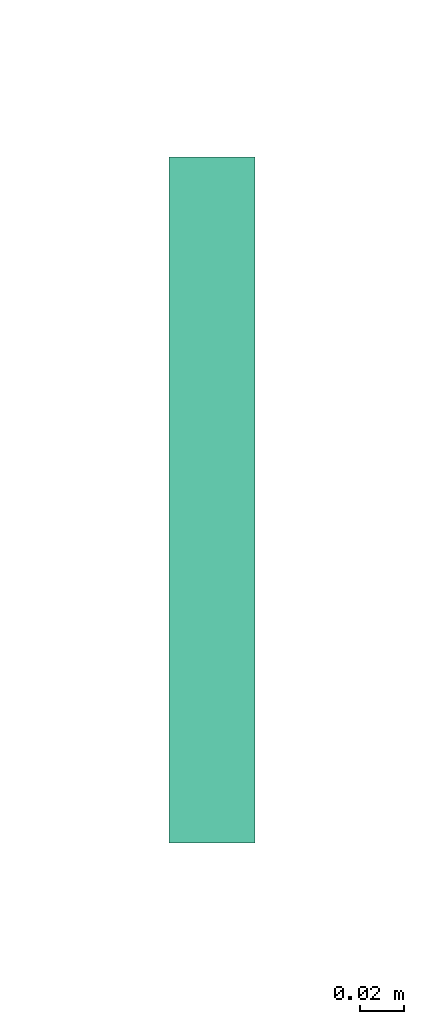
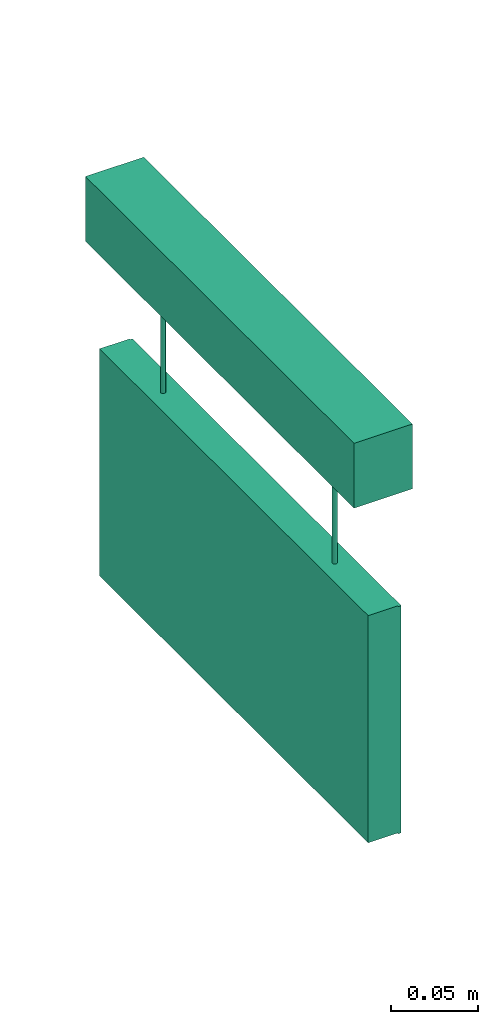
# One storey, part 6 of 22: 1 flow terminal.
"""IFC2X3 building model written with IfcOpenShell, lengths in millimetres."""

import ifcopenshell
import ifcopenshell.guid

model = None  # the IFC model being written
_history = None  # IfcOwnerHistory: only IFC2X3 demands one
_inside = {}  # id of a spatial element -> (the spatial element, [elements in it])
_under = {}  # id of a project, library or spatial element -> (it, [spatial elements below it])
_declared = {}  # id of a project -> (the project, [libraries it declares])
_typed = {}  # id of a type object -> (the type object, [elements of that type])
_made_of = {}  # id of a material, layer set ... -> (it, [elements and type objects made of it])


def new_model(schema):
    """Start an empty IFC model of exactly this schema.

    Asked for "IFC4X3", IfcOpenShell would pick the latest addendum, in which some entities
    have other attributes; the version numbers below select the first issue.
    IFC2X3 requires an IfcOwnerHistory on every rooted entity: one is made here for all.
    """
    global model, _history
    if schema == "IFC4X3":
        model = ifcopenshell.file(schema_version=(4, 3, 0, 0))
    else:
        model = ifcopenshell.file(schema=schema)
    _inside.clear()
    _under.clear()
    _declared.clear()
    _typed.clear()
    _made_of.clear()
    _history = None
    if model.schema == "IFC2X3":
        org = make("IfcOrganization", Name="unknown")
        user = make(
            "IfcPersonAndOrganization",
            ThePerson=make("IfcPerson", FamilyName="unknown"),
            TheOrganization=org,
        )
        app = make(
            "IfcApplication",
            ApplicationDeveloper=org,
            Version="unknown",
            ApplicationFullName="unknown",
            ApplicationIdentifier="unknown",
        )
        _history = make(
            "IfcOwnerHistory",
            OwningUser=user,
            OwningApplication=app,
            ChangeAction="ADDED",
            CreationDate=0,
        )
    return model


def make(cls, **values):
    """One entity of the class cls with the attributes given. An attribute that is None is left unset."""
    return model.create_entity(
        cls, **{name: value for name, value in values.items() if value is not None}
    )


def entity(cls, *values):
    """Any entity or typed value of the class cls, its attributes in the order of the schema. None: left unset."""
    e = model.create_entity(cls)
    for i, value in enumerate(values):
        if value is not None:
            e[i] = value
    return e


def rooted(cls, **values):
    """An entity with a GlobalId (a new one), such as an element, a storey or a relation."""
    return make(cls, GlobalId=ifcopenshell.guid.new(), OwnerHistory=_history, **values)


def si_unit(unit_type, name, prefix=None):
    """IfcSIUnit, for example si_unit("LENGTHUNIT", "METRE", prefix="MILLI")."""
    return make("IfcSIUnit", UnitType=unit_type, Prefix=prefix, Name=name)


def converted_unit(unit_type, name, factor, base, dimensions=None, offset=None):
    """IfcConversionBasedUnit, such as the inch: factor (a typed value) times the base unit."""
    return make(
        "IfcConversionBasedUnit"
        if offset is None
        else "IfcConversionBasedUnitWithOffset",
        ConversionOffset=offset,
        Dimensions=None
        if dimensions is None
        else entity("IfcDimensionalExponents", *dimensions),
        UnitType=unit_type,
        Name=name,
        ConversionFactor=make(
            "IfcMeasureWithUnit", ValueComponent=factor, UnitComponent=base
        ),
    )


def derived_unit(unit_type, elements):
    """IfcDerivedUnit: a product of units, each with its exponent."""
    return make(
        "IfcDerivedUnit",
        Elements=[
            make("IfcDerivedUnitElement", Unit=unit, Exponent=power)
            for unit, power in elements
        ],
        UnitType=unit_type,
    )


def assignment(units):
    """IfcUnitAssignment: the units of a project."""
    return None if units is None else make("IfcUnitAssignment", Units=units)


def point(xyz):
    """IfcCartesianPoint."""
    return None if xyz is None else make("IfcCartesianPoint", Coordinates=xyz)


def direction(xyz):
    """IfcDirection."""
    return None if xyz is None else make("IfcDirection", DirectionRatios=xyz)


def frame(location, z_axis=None, x_axis=None):
    """IfcAxis2Placement3D, a coordinate frame: its origin and axes. An axis left out is left unset."""
    return make(
        "IfcAxis2Placement3D",
        Location=point(location),
        Axis=direction(z_axis),
        RefDirection=direction(x_axis),
    )


def origin_with_axes():
    """The frame at (0, 0, 0) with the z axis (0, 0, 1) and the x axis (1, 0, 0) written out."""
    return frame((0.0, 0.0, 0.0), z_axis=(0.0, 0.0, 1.0), x_axis=(1.0, 0.0, 0.0))


def place(relative_to, where):
    """IfcLocalPlacement: puts the frame where relative to a parent placement (None: the world)."""
    return make(
        "IfcLocalPlacement", PlacementRelTo=relative_to, RelativePlacement=where
    )


def context(
    kind, dimensions, precision=None, world=None, true_north=None, identifier=None
):
    """IfcGeometricRepresentationContext, for example the 3D "Model" context."""
    return make(
        "IfcGeometricRepresentationContext",
        ContextIdentifier=identifier,
        ContextType=kind,
        CoordinateSpaceDimension=dimensions,
        Precision=precision,
        WorldCoordinateSystem=world,
        TrueNorth=true_north,
    )


def subcontext(parent, identifier, kind, view, scale=None):
    """IfcGeometricRepresentationSubContext, for example "Body" below "Model"."""
    return make(
        "IfcGeometricRepresentationSubContext",
        ContextIdentifier=identifier,
        ContextType=kind,
        ParentContext=parent,
        TargetScale=scale,
        TargetView=view,
    )


def project(units=None, contexts=None):
    """IfcProject with its units and contexts."""
    return rooted(
        "IfcProject",
        Name="project",
        RepresentationContexts=contexts,
        UnitsInContext=assignment(units),
    )


def spatial(cls, under=None, at=None, **own):
    """A site, building, storey or space (cls), placed at a placement, below another one or the project."""
    s = rooted(cls, ObjectPlacement=at, **own)
    if under is not None:
        _under.setdefault(under.id(), (under, []))[1].append(s)
    return s


def faces_of(points, faces, orient=None, outer=None):
    """IfcFace entities. A face is a list of loops; a loop is a list of indices into points, from 0.

    orient and outer hold one flag for each loop. By default every Orientation is true, the
    first loop of a face is its IfcFaceOuterBound and the others are IfcFaceBound.
    """
    made = []
    for i, loops in enumerate(faces):
        bounds = []
        for j, loop in enumerate(loops):
            is_outer = j == 0 if outer is None else outer[i][j]
            bounds.append(
                make(
                    "IfcFaceOuterBound" if is_outer else "IfcFaceBound",
                    Bound=make("IfcPolyLoop", Polygon=[points[k] for k in loop]),
                    Orientation=True if orient is None else orient[i][j],
                )
            )
        made.append(make("IfcFace", Bounds=bounds))
    return made


def open_shell(faces, orient=None, outer=None):
    """The faces of one IfcOpenShell. surface_model builds it on its shared points."""
    return ("IfcOpenShell", faces, orient, outer)


def surface_model(cls, points, shells):
    """IfcFaceBasedSurfaceModel or IfcShellBasedSurfaceModel (cls): surfaces that need not close."""
    shared = [point(p) for p in points]
    made = [make(c, CfsFaces=faces_of(shared, fs, o, b)) for c, fs, o, b in shells]
    if cls == "IfcFaceBasedSurfaceModel":
        return make(cls, FbsmFaces=made)
    return make(cls, SbsmBoundary=made)


def shape(context_of_items, identifier, shape_type, items):
    """IfcShapeRepresentation: the items that make up one representation, for example the "Body"."""
    return make(
        "IfcShapeRepresentation",
        ContextOfItems=context_of_items,
        RepresentationIdentifier=identifier,
        RepresentationType=shape_type,
        Items=items,
    )


def source(mapping_origin, context_of_items, identifier, shape_type, items):
    """IfcRepresentationMap: a shape defined once, which mapped items show again and again."""
    return make(
        "IfcRepresentationMap",
        MappingOrigin=mapping_origin,
        MappedRepresentation=shape(context_of_items, identifier, shape_type, items),
    )


def transform(
    local_origin,
    x_axis=None,
    y_axis=None,
    z_axis=None,
    scale=None,
    scale2=None,
    scale3=None,
    uniform=True,
):
    """IfcCartesianTransformationOperator3D, or its non-uniform kind. x_axis, y_axis, z_axis: its Axis1, 2, 3."""
    if uniform:
        return make(
            "IfcCartesianTransformationOperator3D",
            Axis1=direction(x_axis),
            Axis2=direction(y_axis),
            LocalOrigin=point(local_origin),
            Scale=scale,
            Axis3=direction(z_axis),
        )
    return make(
        "IfcCartesianTransformationOperator3DnonUniform",
        Axis1=direction(x_axis),
        Axis2=direction(y_axis),
        LocalOrigin=point(local_origin),
        Scale=scale,
        Axis3=direction(z_axis),
        Scale2=scale2,
        Scale3=scale3,
    )


def mapped(mapping_source, mapping_target):
    """IfcMappedItem: shows the shape of a source again, moved by a transform."""
    return make(
        "IfcMappedItem", MappingSource=mapping_source, MappingTarget=mapping_target
    )


def made_of(thing, what):
    """Note that an element or type object is made of a material, layer set ...; save() writes the relation."""
    if what is not None:
        _made_of.setdefault(what.id(), (what, []))[1].append(thing)
    return thing


def type_object(cls, material=None, **own):
    """A type object (cls), such as IfcWallType, which elements share."""
    return made_of(rooted(cls, **own), material)


def element(
    cls,
    number,
    at=None,
    inside=None,
    cuts=None,
    type_object=None,
    material=None,
    context=None,
    identifier="Body",
    shape_type=None,
    held_by="IfcProductDefinitionShape",
    body=None,
    shapes=None,
    **own,
):
    """One element of the class cls, such as IfcWall. Its Tag is "e" and its number.

    at: its placement. inside: the storey or other place that contains it. cuts: it is an
    opening in that element (IfcRelVoidsElement). A single representation is given by context,
    identifier, shape_type and body (its items); several are given by shapes. held_by: the class
    of the entity that holds the representations. save() writes the other relations.
    """
    e = rooted(cls, Tag="e%d" % number, ObjectPlacement=at, **own)
    if body is not None:
        shapes = [shape(context, identifier, shape_type, body)]
    if shapes is not None:
        e.Representation = make(held_by, Representations=shapes)
    if inside is not None:
        _inside.setdefault(inside.id(), (inside, []))[1].append(e)
    if cuts is not None:
        rooted(
            "IfcRelVoidsElement", RelatingBuildingElement=cuts, RelatedOpeningElement=e
        )
    if type_object is not None:
        _typed.setdefault(type_object.id(), (type_object, []))[1].append(e)
    return made_of(e, material)


def aggregate(whole, parts):
    """IfcRelAggregates: a whole, such as a stair, and the parts it consists of."""
    return rooted("IfcRelAggregates", RelatingObject=whole, RelatedObjects=parts)


def save(model, path):
    """Write the relations noted so far, then the file.

    IfcRelAggregates (storeys below a building ...), IfcRelContainedInSpatialStructure (elements
    in a storey), IfcRelDefinesByType, IfcRelAssociatesMaterial and IfcRelDeclares: one each for
    every whole, place, type object, material and project.
    """
    for whole, parts in _under.values():
        aggregate(whole, parts)
    for where, things in _inside.values():
        rooted(
            "IfcRelContainedInSpatialStructure",
            RelatedElements=things,
            RelatingStructure=where,
        )
    for kind, things in _typed.values():
        rooted("IfcRelDefinesByType", RelatedObjects=things, RelatingType=kind)
    for what, things in _made_of.values():
        rooted("IfcRelAssociatesMaterial", RelatedObjects=things, RelatingMaterial=what)
    for by, libraries in _declared.values():
        rooted("IfcRelDeclares", RelatingContext=by, RelatedDefinitions=libraries)
    model.write(path)


model = new_model("IFC2X3")

# Units and contexts
model_context = context("Model", 3, precision=0.01, world=frame((0.0, 4.29681676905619e-09, 0.0)), true_north=direction((4.01073788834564e-13, 1.0)))
plan_context = context("Plan", 3, precision=0.01, world=frame((0.0, 4.29681676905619e-09, 0.0)), true_north=direction((4.01073788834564e-13, 1.0)))
body_context = subcontext(model_context, "Body", "Model", "MODEL_VIEW")
ifc_project = project(units=[converted_unit("PLANEANGLEUNIT", "DEGREE", entity("IfcPositiveLengthMeasure", 0.0174532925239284), si_unit("PLANEANGLEUNIT", "RADIAN"), dimensions=[0, 0, 0, 0, 0, 0, 0]), si_unit("AREAUNIT", "SQUARE_METRE"), si_unit("LENGTHUNIT", "METRE", prefix="MILLI"), si_unit("MASSUNIT", "GRAM", prefix="KILO"), si_unit("POWERUNIT", "WATT"), si_unit("PRESSUREUNIT", "PASCAL", prefix="KILO"), si_unit("FORCEUNIT", "NEWTON", prefix="KILO"), si_unit("ELECTRICVOLTAGEUNIT", "VOLT"), si_unit("ELECTRICCURRENTUNIT", "AMPERE"), si_unit("THERMODYNAMICTEMPERATUREUNIT", "DEGREE_CELSIUS"), si_unit("TIMEUNIT", "SECOND"), si_unit("VOLUMEUNIT", "CUBIC_METRE"), derived_unit("LINEARVELOCITYUNIT", [(si_unit("LENGTHUNIT", "METRE"), 1), (si_unit("TIMEUNIT", "SECOND"), -1)]), derived_unit("VOLUMETRICFLOWRATEUNIT", [(si_unit("VOLUMEUNIT", "CUBIC_METRE"), 1), (si_unit("TIMEUNIT", "SECOND"), -1)]), derived_unit("THERMALTRANSMITTANCEUNIT", [(si_unit("POWERUNIT", "WATT"), 1), (si_unit("THERMODYNAMICTEMPERATUREUNIT", "KELVIN"), -1), (si_unit("AREAUNIT", "SQUARE_METRE"), -1)]), derived_unit("SOUNDPRESSUREUNIT", [(si_unit("PRESSUREUNIT", "PASCAL"), 1)])], contexts=[model_context, plan_context])

# Site, building, storey
site_placement = place(None, frame((0.0, -4.29681676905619e-09, 0.0), z_axis=(0.0, 0.0, 1.0), x_axis=(1.0, 0.0, 0.0)))
site = spatial("IfcSite", under=ifc_project, at=site_placement, Name="ENGM", CompositionType="ELEMENT")
building_placement = place(site_placement, frame((0.0, 4.29681676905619e-09, 0.0), z_axis=(0.0, 0.0, 1.0), x_axis=(1.0, 0.0, 0.0)))
building = spatial("IfcBuilding", under=site, at=building_placement, Name="TI", CompositionType="ELEMENT")
storey_placement = place(building_placement, frame((0.0, 0.0, 210900.0), z_axis=(0.0, 0.0, 1.0), x_axis=(1.0, 0.0, 0.0)))
storey = spatial("IfcBuildingStorey", under=building, at=storey_placement, Name="Nivå F", CompositionType="ELEMENT", Elevation=210900.0)

# Flow terminal
light_fixture_type = type_object("IfcLightFixtureType", Name="IB7334 Zumtobel Puresign/Consign 150 ASI NDA", PredefinedType="NOTDEFINED")
shared_shape = source(origin_with_axes(), body_context, "Body", "SurfaceModel", [
    surface_model("IfcShellBasedSurfaceModel", [(-81.53868, 34.0, -145.12258), (-54.46132, 34.0, -145.12258), (-54.46132, 34.0, -221.44284), (-27.10707, 34.0, -224.68761), (-68.0, 34.0, -265.58054), (-27.10707, 34.0, -194.08859), (-81.53868, 34.0, -221.44284), (-108.89293, 34.0, -224.68761), (-108.89293, 34.0, -194.08859), (-81.53868, 32.0, -221.44284), (-68.0, 32.0, -265.58054), (-54.46132, 32.0, -221.44284), (-108.89293, 32.0, -224.68761), (-108.89293, 32.0, -194.08859), (-27.10707, 32.0, -224.68761), (-81.53868, 32.0, -145.12258), (-54.46132, 32.0, -145.12258), (-27.10707, 32.0, -194.08859), (-128.62178, 34.0, -240.35155), (-135.61481, 34.0, -223.4689), (-117.49747, 34.0, -254.84903), (-138.0, 34.0, -205.35156), (-135.61481, 34.0, -187.23423), (-128.62178, 34.0, -170.35156), (-103.0, 34.0, -265.97334), (-86.11734, 34.0, -272.96637), (-68.0, 34.0, -275.35156), (-49.88267, 34.0, -272.96637), (-33.0, 34.0, -265.97334), (-117.49747, 34.0, -155.8541), (-103.0, 34.0, -144.72978), (-86.11734, 34.0, -137.73675), (-68.0, 34.0, -135.35156), (-49.88267, 34.0, -137.73675), (-33.0, 34.0, -144.72978), (-0.38519, 34.0, -223.4689), (-7.37822, 34.0, -240.35155), (2.0, 34.0, -205.35156), (-18.50252, 34.0, -254.84903), (-18.50252, 34.0, -155.8541), (-7.37822, 34.0, -170.35156), (-0.38519, 34.0, -187.23423), (-49.88267, 32.0, -137.73675), (-68.0, 32.0, -135.35156), (-33.0, 32.0, -144.72978), (-103.0, 32.0, -144.72978), (-86.11734, 32.0, -137.73675), (-0.38519, 32.0, -187.23423), (-7.37822, 32.0, -170.35156), (2.0, 32.0, -205.35156), (-18.50252, 32.0, -155.8541), (-0.38519, 32.0, -223.4689), (-7.37822, 32.0, -240.35155), (-18.50252, 32.0, -254.84903), (-117.49747, 32.0, -155.8541), (-128.62178, 32.0, -170.35156), (-135.61481, 32.0, -187.23423), (-138.0, 32.0, -205.35156), (-135.61481, 32.0, -223.4689), (-128.62178, 32.0, -240.35155), (-117.49747, 32.0, -254.84903), (-103.0, 32.0, -265.97334), (-33.0, 32.0, -265.97334), (-86.11734, 32.0, -272.96637), (-49.88267, 32.0, -272.96637), (-68.0, 32.0, -275.35156), (-155.0, 34.0, -285.35157), (29.54747, 34.0, -259.89348), (40.0, 34.0, -266.174), (155.0, 34.0, -285.35157), (-155.0, 34.0, -125.35156), (10.0, 34.0, -203.35156), (10.0, 34.0, -191.35157), (40.0, 34.0, -203.35156), (28.0, 34.0, -178.14045), (58.20469, 34.0, -212.19986), (68.0, 34.0, -251.35155), (68.0, 34.0, -219.57417), (110.0, 34.0, -251.35155), (110.0, 34.0, -239.35156), (80.0, 34.0, -207.93515), (80.0, 34.0, -239.35156), (155.0, 34.0, -125.35156), (28.0, 34.0, -191.35157), (88.85504, 34.0, -196.43854), (99.14496, 34.0, -190.26459), (78.60286, 34.0, -179.35157), (65.7082, 34.0, -179.35157), (38.37653, 34.0, -166.87452), (42.6718, 34.0, -168.35925), (40.0, 34.0, -183.07235), (29.87565, 34.0, -160.35157), (28.0, 34.0, -153.35156), (28.47704, 34.0, -149.7281), (29.87565, 34.0, -146.35156), (28.47704, 34.0, -156.97503), (35.0, 34.0, -165.47591), (32.1005, 34.0, -163.25106), (42.0, 34.0, -139.35156), (32.1005, 34.0, -143.45206), (35.0, 34.0, -141.22721), (38.37653, 34.0, -139.8286), (42.0, 34.0, -167.35156), (45.62347, 34.0, -166.87452), (46.0, 34.0, -167.35156), (49.0, 34.0, -165.47591), (85.39714, 34.0, -167.35156), (51.89949, 34.0, -163.25106), (54.12435, 34.0, -160.35157), (55.52296, 34.0, -156.97503), (51.89949, 34.0, -143.45206), (49.0, 34.0, -141.22721), (45.62347, 34.0, -139.8286), (55.52296, 34.0, -149.7281), (56.0, 34.0, -153.35156), (54.12435, 34.0, -146.35156), (155.0, 32.0, -125.35156), (-155.0, 32.0, -125.35156), (42.0, 32.0, -139.35156), (35.0, 32.0, -141.22721), (29.87565, 32.0, -146.35156), (32.1005, 32.0, -143.45206), (38.37653, 32.0, -139.8286), (28.47704, 32.0, -149.7281), (28.0, 32.0, -153.35156), (28.47704, 32.0, -156.97503), (28.0, 32.0, -178.14045), (38.37653, 32.0, -166.87452), (35.0, 32.0, -165.47591), (32.1005, 32.0, -163.25106), (29.87565, 32.0, -160.35157), (45.62347, 32.0, -139.8286), (49.0, 32.0, -141.22721), (51.89949, 32.0, -143.45206), (54.12435, 32.0, -146.35156), (85.39714, 32.0, -167.35156), (55.52296, 32.0, -149.7281), (56.0, 32.0, -153.35156), (45.62347, 32.0, -166.87452), (42.6718, 32.0, -168.35925), (46.0, 32.0, -167.35156), (42.0, 32.0, -167.35156), (49.0, 32.0, -165.47591), (54.12435, 32.0, -160.35157), (55.52296, 32.0, -156.97503), (51.89949, 32.0, -163.25106), (99.14496, 32.0, -190.26459), (-155.0, 32.0, -285.35157), (10.0, 32.0, -203.35156), (10.0, 32.0, -191.35157), (40.0, 32.0, -203.35156), (29.54747, 32.0, -259.89348), (155.0, 32.0, -285.35157), (40.0, 32.0, -266.174), (28.0, 32.0, -191.35157), (88.85504, 32.0, -196.43854), (78.60286, 32.0, -179.35157), (80.0, 32.0, -207.93515), (65.7082, 32.0, -179.35157), (110.0, 32.0, -239.35156), (40.0, 32.0, -183.07235), (58.20469, 32.0, -212.19986), (68.0, 32.0, -219.57417), (68.0, 32.0, -251.35155), (110.0, 32.0, -251.35155), (80.0, 32.0, -239.35156), (97.65961, 22.79955, -45.35156), (98.63059, 23.54461, -45.35156), (98.24492, 23.38486, -45.35156), (97.91374, 23.13074, -45.35156), (97.49985, 22.41388, -45.35156), (97.44537, 22.0, -45.35156), (99.45835, 23.54461, -45.35156), (100.42933, 21.20045, -45.35156), (99.84401, 23.38486, -45.35156), (100.58908, 22.41388, -45.35156), (99.04447, 23.5991, -45.35156), (100.42933, 22.79955, -45.35156), (100.1752, 23.13074, -45.35156), (97.91374, 20.86927, -45.35156), (97.49985, 21.58612, -45.35156), (97.65961, 21.20045, -45.35156), (98.63059, 20.45539, -45.35156), (99.04447, 20.4009, -45.35156), (98.24492, 20.61514, -45.35156), (99.45835, 20.45539, -45.35156), (100.64357, 22.0, -45.35156), (100.58908, 21.58612, -45.35156), (99.84401, 20.61514, -45.35156), (100.1752, 20.86927, -45.35156), (-99.84401, 23.38486, -45.35156), (-98.24492, 23.38486, -45.35156), (-99.45835, 23.54461, -45.35156), (-100.1752, 23.13074, -45.35156), (-100.1752, 20.86927, -45.35156), (-100.58908, 22.41388, -45.35156), (-100.64357, 22.0, -45.35156), (-100.42933, 22.79955, -45.35156), (-97.65961, 21.20045, -45.35156), (-99.04447, 23.5991, -45.35156), (-98.63059, 23.54461, -45.35156), (-97.91374, 23.13074, -45.35156), (-97.49985, 22.41388, -45.35156), (-97.65961, 22.79955, -45.35156), (-100.58908, 21.58612, -45.35156), (-100.42933, 21.20045, -45.35156), (-99.45835, 20.45539, -45.35156), (-99.84401, 20.61514, -45.35156), (-99.04447, 20.4009, -45.35156), (-98.63059, 20.45539, -45.35156), (-97.44537, 22.0, -45.35156), (-97.49985, 21.58612, -45.35156), (-98.24492, 20.61514, -45.35156), (-97.91374, 20.86927, -45.35156), (97.91374, 20.86927, -124.69685), (99.04447, 20.4009, -124.69685), (98.63059, 20.45539, -124.69685), (98.24492, 20.61514, -124.69685), (97.65961, 21.20045, -124.69685), (97.49985, 21.58612, -124.69685), (99.45835, 20.45539, -124.69685), (97.65961, 22.79955, -124.69685), (100.42933, 21.20045, -124.69685), (99.84401, 20.61514, -124.69685), (100.1752, 20.86927, -124.69685), (100.64357, 22.0, -124.69685), (100.58908, 21.58612, -124.69685), (100.58908, 22.41388, -124.69685), (97.44537, 22.0, -124.69685), (97.49985, 22.41388, -124.69685), (98.63059, 23.54461, -124.69685), (98.24492, 23.38486, -124.69685), (97.91374, 23.13074, -124.69685), (99.45835, 23.54461, -124.69685), (100.42933, 22.79955, -124.69685), (99.84401, 23.38486, -124.69685), (100.1752, 23.13074, -124.69685), (99.04447, 23.5991, -124.69685), (-99.45835, 20.45539, -124.69685), (-98.63059, 20.45539, -124.69685), (-99.04447, 20.4009, -124.69685), (-100.1752, 20.86927, -124.69685), (-99.84401, 20.61514, -124.69685), (-100.42933, 21.20045, -124.69685), (-100.58908, 21.58612, -124.69685), (-97.65961, 21.20045, -124.69685), (-99.84401, 23.38486, -124.69685), (-98.24492, 20.61514, -124.69685), (-97.91374, 20.86927, -124.69685), (-97.44537, 22.0, -124.69685), (-97.49985, 21.58612, -124.69685), (-97.49985, 22.41388, -124.69685), (-100.64357, 22.0, -124.69685), (-100.1752, 23.13074, -124.69685), (-100.58908, 22.41388, -124.69685), (-100.42933, 22.79955, -124.69685), (-98.24492, 23.38486, -124.69685), (-99.45835, 23.54461, -124.69685), (-97.91374, 23.13074, -124.69685), (-97.65961, 22.79955, -124.69685), (-99.04447, 23.5991, -124.69685), (-98.63059, 23.54461, -124.69685), (155.0, 41.43279, -0.02005), (155.0, 2.56721, -0.02005), (155.0, 41.43279, -45.67969), (155.0, 2.56721, -45.67969), (155.0, 32.0, -124.69685), (155.0, 12.0, -124.69685), (155.0, 12.0, -284.69685), (155.0, 32.0, -284.69685), (-155.0, 32.0, -284.69685), (-155.0, 12.0, -284.69685), (-155.0, 32.0, -124.69685), (-155.0, 12.0, -124.69685), (-155.0, 41.43279, -45.67969), (-155.0, 2.56721, -45.67969), (-155.0, 2.56721, -0.02005), (-155.0, 41.43279, -0.02005)], [open_shell([[[0, 1, 2]], [[2, 3, 4]], [[3, 2, 5]], [[6, 4, 7]], [[4, 6, 2]], [[6, 7, 8]], [[2, 6, 0]], [[9, 10, 11]], [[12, 9, 13]], [[9, 12, 10]], [[10, 14, 11]], [[15, 11, 16]], [[15, 9, 11]], [[17, 11, 14]], [[3, 5, 17]], [[17, 14, 3]], [[4, 3, 14]], [[14, 10, 4]], [[7, 4, 10]], [[10, 12, 7]], [[8, 7, 12]], [[12, 13, 8]], [[6, 8, 9]], [[13, 9, 8]], [[0, 6, 9]], [[9, 15, 0]], [[1, 0, 15]], [[15, 16, 1]], [[2, 1, 16]], [[16, 11, 2]], [[5, 2, 17]], [[11, 17, 2]], [[18, 19, 7]], [[7, 20, 18]], [[7, 19, 21]], [[22, 23, 8]], [[7, 21, 8]], [[6, 8, 0]], [[8, 21, 22]], [[20, 7, 24]], [[25, 24, 4]], [[26, 4, 27]], [[4, 26, 25]], [[7, 4, 24]], [[27, 4, 28]], [[3, 28, 4]], [[8, 23, 29]], [[30, 0, 8]], [[0, 31, 32]], [[31, 0, 30]], [[32, 33, 1]], [[2, 1, 5]], [[34, 1, 33]], [[32, 1, 0]], [[5, 1, 34]], [[3, 35, 36]], [[35, 3, 37]], [[36, 38, 3]], [[38, 28, 3]], [[39, 40, 5]], [[5, 41, 37]], [[41, 5, 40]], [[5, 37, 3]], [[39, 5, 34]], [[30, 8, 29]], [[42, 43, 16]], [[17, 44, 16]], [[16, 44, 42]], [[43, 15, 16]], [[15, 45, 13]], [[46, 15, 43]], [[15, 46, 45]], [[16, 11, 17]], [[17, 47, 48]], [[17, 49, 47]], [[48, 50, 17]], [[14, 51, 49]], [[52, 51, 14]], [[52, 14, 53]], [[14, 49, 17]], [[50, 44, 17]], [[45, 54, 13]], [[55, 56, 13]], [[57, 12, 13]], [[13, 56, 57]], [[9, 15, 13]], [[58, 59, 12]], [[60, 12, 59]], [[12, 57, 58]], [[12, 60, 61]], [[14, 10, 62]], [[53, 14, 62]], [[61, 63, 10]], [[64, 10, 65]], [[10, 64, 62]], [[65, 10, 63]], [[12, 61, 10]], [[13, 54, 55]], [[3, 4, 10]], [[10, 14, 3]], [[5, 3, 14]], [[14, 17, 5]], [[2, 5, 17]], [[17, 11, 2]], [[1, 2, 16]], [[11, 16, 2]], [[0, 1, 16]], [[16, 15, 0]], [[6, 0, 15]], [[15, 9, 6]], [[8, 6, 9]], [[9, 13, 8]], [[7, 8, 13]], [[13, 12, 7]], [[4, 7, 12]], [[12, 10, 4]], [[42, 33, 43]], [[44, 34, 42]], [[40, 50, 48]], [[44, 50, 39]], [[41, 48, 47]], [[42, 34, 33]], [[33, 32, 43]], [[41, 40, 48]], [[39, 50, 40]], [[39, 34, 44]], [[37, 41, 47]], [[47, 49, 37]], [[51, 35, 49]], [[52, 36, 51]], [[28, 53, 62]], [[52, 53, 38]], [[27, 62, 64]], [[52, 38, 36]], [[36, 35, 51]], [[26, 27, 64]], [[28, 62, 27]], [[28, 38, 53]], [[65, 26, 64]], [[49, 35, 37]], [[63, 25, 65]], [[61, 24, 63]], [[18, 60, 59]], [[61, 60, 20]], [[19, 59, 58]], [[63, 24, 25]], [[25, 26, 65]], [[19, 18, 59]], [[20, 60, 18]], [[20, 24, 61]], [[21, 19, 58]], [[58, 57, 21]], [[56, 22, 57]], [[55, 23, 56]], [[30, 54, 45]], [[55, 54, 29]], [[31, 45, 46]], [[55, 29, 23]], [[23, 22, 56]], [[32, 31, 46]], [[30, 45, 31]], [[30, 29, 54]], [[43, 32, 46]], [[57, 22, 21]], [[66, 24, 25]], [[24, 66, 20]], [[18, 20, 66]], [[66, 19, 18]], [[25, 26, 66]], [[28, 38, 67]], [[27, 28, 68]], [[26, 27, 69]], [[66, 26, 69]], [[21, 19, 66]], [[22, 21, 70]], [[67, 36, 35]], [[71, 37, 72]], [[41, 72, 37]], [[37, 71, 35]], [[73, 35, 71]], [[41, 40, 74]], [[21, 66, 70]], [[38, 36, 67]], [[67, 68, 28]], [[67, 73, 75]], [[76, 68, 77]], [[69, 78, 79]], [[69, 68, 78]], [[80, 79, 81]], [[68, 76, 78]], [[82, 69, 79]], [[68, 69, 27]], [[73, 67, 35]], [[74, 83, 72]], [[72, 41, 74]], [[84, 85, 79]], [[84, 80, 86]], [[86, 80, 87]], [[88, 89, 74]], [[84, 79, 80]], [[75, 73, 90]], [[82, 79, 85]], [[91, 74, 40]], [[92, 40, 39]], [[39, 93, 92]], [[94, 93, 39]], [[23, 70, 29]], [[40, 92, 95]], [[96, 74, 97]], [[91, 40, 95]], [[74, 91, 97]], [[74, 96, 88]], [[31, 30, 70]], [[98, 33, 32]], [[70, 32, 31]], [[30, 29, 70]], [[39, 99, 94]], [[39, 34, 99]], [[34, 100, 99]], [[100, 34, 33]], [[101, 100, 33]], [[32, 70, 82]], [[23, 22, 70]], [[89, 102, 103]], [[102, 89, 88]], [[89, 103, 104]], [[104, 105, 106]], [[107, 106, 105]], [[105, 104, 103]], [[106, 108, 109]], [[106, 107, 108]], [[110, 111, 82]], [[98, 101, 33]], [[112, 98, 82]], [[111, 112, 82]], [[113, 106, 114]], [[115, 82, 106]], [[82, 115, 110]], [[106, 113, 115]], [[114, 106, 109]], [[98, 32, 82]], [[106, 82, 85]], [[116, 117, 43]], [[43, 117, 46]], [[45, 46, 117]], [[117, 54, 45]], [[43, 42, 118]], [[119, 42, 44]], [[120, 121, 50]], [[44, 121, 119]], [[44, 50, 121]], [[119, 122, 42]], [[123, 120, 50]], [[123, 50, 124]], [[125, 124, 48]], [[54, 117, 55]], [[126, 127, 128]], [[126, 129, 130]], [[126, 128, 129]], [[130, 125, 48]], [[124, 50, 48]], [[117, 56, 55]], [[118, 131, 116]], [[118, 42, 122]], [[131, 132, 116]], [[116, 133, 134]], [[133, 116, 132]], [[135, 134, 136]], [[116, 134, 135]], [[135, 136, 137]], [[118, 116, 43]], [[138, 139, 140]], [[139, 138, 141]], [[139, 141, 127]], [[127, 126, 139]], [[138, 140, 142]], [[143, 135, 144]], [[142, 135, 145]], [[135, 142, 140]], [[135, 143, 145]], [[144, 135, 137]], [[116, 135, 146]], [[56, 117, 57]], [[57, 147, 58]], [[126, 48, 47]], [[148, 49, 51]], [[47, 49, 149]], [[150, 148, 51]], [[148, 149, 49]], [[51, 52, 151]], [[60, 59, 147]], [[61, 147, 63]], [[147, 61, 60]], [[59, 58, 147]], [[53, 62, 151]], [[65, 63, 147]], [[64, 65, 152]], [[62, 64, 153]], [[147, 152, 65]], [[117, 147, 57]], [[52, 53, 151]], [[154, 126, 149]], [[126, 47, 149]], [[155, 156, 157]], [[157, 156, 158]], [[146, 155, 159]], [[160, 150, 161]], [[162, 153, 163]], [[153, 151, 62]], [[163, 153, 164]], [[161, 150, 151]], [[157, 165, 159]], [[159, 164, 152]], [[116, 159, 152]], [[153, 152, 164]], [[159, 155, 157]], [[153, 64, 152]], [[51, 151, 150]], [[159, 116, 146]], [[130, 48, 126]], [[70, 66, 147]], [[147, 117, 70]], [[82, 70, 117]], [[117, 116, 82]], [[69, 82, 116]], [[116, 152, 69]], [[66, 69, 152]], [[152, 147, 66]], [[79, 78, 164]], [[164, 159, 79]], [[81, 79, 159]], [[159, 165, 81]], [[87, 80, 157]], [[157, 158, 87]], [[86, 87, 158]], [[158, 156, 86]], [[84, 86, 156]], [[156, 155, 84]], [[85, 84, 155]], [[155, 146, 85]], [[106, 85, 146]], [[146, 135, 106]], [[104, 106, 135]], [[135, 140, 104]], [[89, 104, 139]], [[140, 139, 104]], [[74, 89, 139]], [[139, 126, 74]], [[83, 74, 126]], [[126, 154, 83]], [[72, 83, 149]], [[154, 149, 83]], [[71, 72, 149]], [[149, 148, 71]], [[73, 71, 148]], [[148, 150, 73]], [[90, 73, 150]], [[150, 160, 90]], [[75, 90, 160]], [[160, 161, 75]], [[67, 75, 161]], [[161, 151, 67]], [[68, 67, 151]], [[151, 153, 68]], [[77, 68, 153]], [[153, 162, 77]], [[76, 77, 162]], [[162, 163, 76]], [[92, 125, 95]], [[95, 130, 91]], [[96, 97, 128]], [[129, 97, 91]], [[88, 96, 127]], [[125, 130, 95]], [[92, 124, 125]], [[96, 128, 127]], [[128, 97, 129]], [[91, 130, 129]], [[88, 127, 141]], [[141, 102, 88]], [[102, 138, 103]], [[103, 142, 105]], [[108, 107, 143]], [[145, 107, 105]], [[109, 108, 144]], [[142, 145, 105]], [[103, 138, 142]], [[109, 144, 137]], [[144, 108, 143]], [[107, 145, 143]], [[109, 137, 114]], [[141, 138, 102]], [[78, 76, 163]], [[163, 164, 78]], [[80, 81, 165]], [[165, 157, 80]], [[114, 136, 113]], [[113, 134, 115]], [[111, 110, 132]], [[133, 110, 115]], [[112, 111, 131]], [[136, 134, 113]], [[114, 137, 136]], [[111, 132, 131]], [[132, 110, 133]], [[115, 134, 133]], [[112, 131, 118]], [[118, 98, 112]], [[98, 122, 101]], [[101, 119, 100]], [[94, 99, 120]], [[121, 99, 100]], [[93, 94, 123]], [[119, 121, 100]], [[101, 122, 119]], [[93, 123, 124]], [[123, 94, 120]], [[99, 121, 120]], [[93, 124, 92]], [[118, 122, 98]], [[37, 47, 41]], [[41, 48, 40]], [[34, 39, 44]], [[50, 39, 40]], [[33, 34, 42]], [[47, 48, 41]], [[37, 49, 47]], [[34, 44, 42]], [[44, 39, 50]], [[40, 48, 50]], [[33, 42, 43]], [[43, 32, 33]], [[32, 46, 31]], [[31, 45, 30]], [[23, 29, 55]], [[54, 29, 30]], [[22, 23, 56]], [[45, 54, 30]], [[31, 46, 45]], [[22, 56, 57]], [[56, 23, 55]], [[29, 54, 55]], [[22, 57, 21]], [[43, 46, 32]], [[21, 58, 19]], [[19, 59, 18]], [[24, 20, 61]], [[60, 20, 18]], [[25, 24, 63]], [[58, 59, 19]], [[21, 57, 58]], [[24, 61, 63]], [[61, 20, 60]], [[18, 59, 60]], [[25, 63, 65]], [[65, 26, 25]], [[26, 64, 27]], [[27, 62, 28]], [[36, 38, 52]], [[53, 38, 28]], [[35, 36, 51]], [[62, 53, 28]], [[27, 64, 62]], [[35, 51, 49]], [[51, 36, 52]], [[38, 53, 52]], [[35, 49, 37]], [[65, 64, 26]], [[106, 86, 87]], [[86, 106, 85]], [[84, 86, 85]], [[87, 75, 90]], [[106, 87, 104]], [[89, 90, 74]], [[90, 89, 104]], [[73, 83, 90]], [[71, 72, 83]], [[83, 74, 90]], [[104, 87, 90]], [[77, 80, 81]], [[78, 76, 81]], [[78, 81, 79]], [[77, 81, 76]], [[73, 71, 83]], [[75, 77, 67]], [[77, 68, 67]], [[75, 80, 77]], [[75, 87, 80]], [[98, 112, 111]], [[110, 98, 111]], [[92, 101, 110]], [[113, 110, 115]], [[113, 92, 110]], [[101, 99, 100]], [[101, 98, 110]], [[101, 94, 99]], [[101, 92, 94]], [[94, 92, 93]], [[114, 109, 113]], [[109, 108, 107]], [[91, 109, 107]], [[105, 103, 102]], [[91, 107, 105]], [[91, 105, 102]], [[92, 91, 95]], [[92, 109, 91]], [[91, 96, 97]], [[102, 96, 91]], [[102, 88, 96]], [[109, 92, 113]], [[163, 164, 165]], [[163, 165, 162]], [[159, 165, 164]], [[162, 165, 157]], [[161, 151, 162]], [[151, 153, 162]], [[160, 161, 158]], [[148, 150, 154]], [[162, 157, 161]], [[161, 157, 158]], [[155, 146, 156]], [[158, 156, 135]], [[135, 156, 146]], [[158, 135, 140]], [[154, 150, 160]], [[126, 154, 160]], [[149, 148, 154]], [[160, 139, 126]], [[139, 160, 140]], [[160, 158, 140]], [[141, 138, 142]], [[130, 141, 142]], [[145, 143, 144]], [[130, 142, 145]], [[130, 145, 144]], [[128, 130, 129]], [[128, 127, 141]], [[130, 124, 125]], [[130, 128, 141]], [[120, 124, 130]], [[130, 144, 122]], [[144, 136, 133]], [[133, 136, 134]], [[118, 133, 132]], [[118, 144, 133]], [[132, 131, 118]], [[120, 122, 121]], [[123, 124, 120]], [[121, 122, 119]], [[130, 122, 120]], [[122, 144, 118]], [[137, 136, 144]], [[78, 79, 159]], [[159, 164, 78]], [[76, 78, 164]], [[164, 163, 76]], [[77, 76, 163]], [[163, 162, 77]], [[68, 77, 162]], [[162, 153, 68]], [[67, 68, 153]], [[153, 151, 67]], [[75, 67, 151]], [[151, 161, 75]], [[90, 75, 161]], [[161, 160, 90]], [[73, 90, 160]], [[160, 150, 73]], [[71, 73, 150]], [[150, 148, 71]], [[72, 71, 148]], [[148, 149, 72]], [[83, 72, 149]], [[149, 154, 83]], [[74, 83, 154]], [[154, 126, 74]], [[89, 74, 126]], [[126, 139, 89]], [[104, 89, 139]], [[139, 140, 104]], [[106, 104, 140]], [[140, 135, 106]], [[85, 106, 135]], [[135, 146, 85]], [[84, 85, 146]], [[146, 155, 84]], [[86, 84, 155]], [[155, 156, 86]], [[87, 86, 156]], [[156, 158, 87]], [[80, 87, 158]], [[158, 157, 80]], [[81, 80, 157]], [[157, 165, 81]], [[79, 81, 165]], [[165, 159, 79]], [[123, 93, 124]], [[120, 94, 123]], [[100, 121, 119]], [[120, 121, 99]], [[101, 119, 122]], [[123, 94, 93]], [[93, 92, 124]], [[101, 100, 119]], [[99, 121, 100]], [[99, 94, 120]], [[98, 101, 122]], [[122, 118, 98]], [[131, 112, 118]], [[132, 111, 131]], [[115, 133, 134]], [[132, 133, 110]], [[113, 134, 136]], [[132, 110, 111]], [[111, 112, 131]], [[114, 113, 136]], [[115, 134, 113]], [[115, 110, 133]], [[137, 114, 136]], [[118, 112, 98]], [[144, 109, 137]], [[143, 108, 144]], [[105, 145, 142]], [[143, 145, 107]], [[103, 142, 138]], [[144, 108, 109]], [[109, 114, 137]], [[103, 105, 142]], [[107, 145, 105]], [[107, 108, 143]], [[102, 103, 138]], [[138, 141, 102]], [[127, 88, 141]], [[128, 96, 127]], [[91, 129, 130]], [[128, 129, 97]], [[95, 130, 125]], [[128, 97, 96]], [[96, 88, 127]], [[92, 95, 125]], [[91, 130, 95]], [[91, 97, 129]], [[124, 92, 125]], [[141, 88, 102]], [[166, 167, 168]], [[166, 168, 169]], [[166, 170, 171]], [[172, 167, 173]], [[167, 166, 173]], [[174, 173, 175]], [[172, 176, 167]], [[174, 177, 178]], [[177, 174, 175]], [[174, 172, 173]], [[166, 171, 179]], [[180, 181, 179]], [[166, 179, 173]], [[182, 183, 179]], [[182, 179, 184]], [[185, 179, 183]], [[186, 173, 187]], [[175, 173, 186]], [[173, 188, 189]], [[188, 173, 185]], [[179, 185, 173]], [[171, 180, 179]], [[190, 191, 192]], [[193, 194, 190]], [[195, 196, 193]], [[195, 193, 197]], [[198, 191, 190]], [[199, 191, 200]], [[199, 192, 191]], [[201, 202, 203]], [[198, 201, 191]], [[198, 202, 201]], [[193, 196, 194]], [[204, 205, 194]], [[190, 194, 198]], [[194, 206, 198]], [[206, 194, 207]], [[208, 209, 206]], [[210, 198, 211]], [[202, 198, 210]], [[198, 212, 213]], [[212, 198, 209]], [[206, 209, 198]], [[196, 204, 194]], [[214, 215, 216]], [[214, 216, 217]], [[214, 218, 219]], [[215, 214, 220]], [[221, 222, 214]], [[223, 222, 224]], [[222, 223, 220]], [[222, 225, 226]], [[222, 220, 214]], [[222, 227, 225]], [[228, 214, 219]], [[228, 229, 221]], [[230, 222, 221]], [[231, 230, 221]], [[231, 221, 232]], [[222, 230, 233]], [[234, 235, 236]], [[235, 234, 227]], [[222, 235, 227]], [[233, 235, 222]], [[230, 237, 233]], [[221, 214, 228]], [[238, 239, 240]], [[241, 238, 242]], [[241, 243, 244]], [[245, 238, 241]], [[246, 245, 241]], [[247, 245, 248]], [[245, 247, 239]], [[245, 249, 250]], [[245, 239, 238]], [[245, 251, 249]], [[252, 241, 244]], [[253, 252, 254]], [[253, 254, 255]], [[246, 256, 245]], [[241, 253, 246]], [[256, 246, 257]], [[251, 258, 259]], [[245, 258, 251]], [[256, 260, 261]], [[245, 256, 258]], [[257, 260, 256]], [[253, 241, 252]], [[227, 175, 225]], [[234, 177, 227]], [[233, 237, 172]], [[236, 177, 234]], [[186, 225, 175]], [[175, 227, 177]], [[235, 174, 178]], [[174, 235, 172]], [[235, 233, 172]], [[178, 177, 236]], [[178, 236, 235]], [[237, 176, 172]], [[167, 230, 231]], [[232, 168, 231]], [[166, 221, 229]], [[232, 221, 169]], [[170, 229, 228]], [[167, 176, 230]], [[168, 167, 231]], [[166, 169, 221]], [[171, 170, 228]], [[166, 229, 170]], [[168, 232, 169]], [[230, 176, 237]], [[219, 180, 228]], [[218, 181, 219]], [[214, 217, 184]], [[218, 214, 179]], [[171, 228, 180]], [[180, 219, 181]], [[183, 182, 216]], [[216, 182, 184]], [[179, 214, 184]], [[179, 181, 218]], [[217, 216, 184]], [[216, 215, 183]], [[185, 220, 223]], [[224, 188, 223]], [[173, 222, 226]], [[224, 222, 189]], [[187, 226, 225]], [[183, 215, 185]], [[188, 185, 223]], [[173, 189, 222]], [[186, 187, 225]], [[173, 226, 187]], [[188, 224, 189]], [[185, 215, 220]], [[244, 243, 204]], [[252, 244, 196]], [[242, 238, 206]], [[241, 242, 194]], [[243, 241, 205]], [[243, 205, 204]], [[204, 196, 244]], [[194, 205, 241]], [[194, 242, 207]], [[206, 207, 242]], [[206, 238, 208]], [[238, 240, 208]], [[247, 248, 213]], [[239, 247, 212]], [[250, 249, 210]], [[245, 250, 211]], [[248, 245, 198]], [[239, 209, 240]], [[239, 212, 209]], [[240, 209, 208]], [[198, 245, 211]], [[212, 247, 213]], [[213, 248, 198]], [[250, 210, 211]], [[251, 259, 202]], [[249, 251, 210]], [[256, 261, 191]], [[258, 256, 201]], [[259, 258, 203]], [[210, 251, 202]], [[202, 259, 203]], [[201, 256, 191]], [[200, 191, 261]], [[203, 258, 201]], [[199, 200, 261]], [[261, 260, 199]], [[246, 253, 193]], [[257, 246, 190]], [[254, 252, 196]], [[255, 254, 195]], [[253, 255, 197]], [[257, 192, 260]], [[257, 190, 192]], [[260, 192, 199]], [[197, 255, 195]], [[190, 246, 193]], [[193, 253, 197]], [[254, 196, 195]], [[262, 263, 264]], [[265, 264, 263]], [[266, 267, 268]], [[268, 269, 266]], [[270, 271, 272]], [[273, 272, 271]], [[274, 275, 276]], [[276, 277, 274]], [[265, 263, 276]], [[276, 275, 265]], [[268, 267, 273]], [[273, 271, 268]], [[269, 268, 270]], [[271, 270, 268]], [[266, 269, 272]], [[270, 272, 269]], [[264, 265, 274]], [[275, 274, 265]], [[262, 264, 274]], [[274, 277, 262]], [[263, 262, 277]], [[277, 276, 263]], [[267, 266, 273]], [[272, 273, 266]]])]),
])
flow_terminal_placement = place(storey_placement, frame((583727.37228, 572226.83498, 2800.0), z_axis=(0.0, 0.0, 1.0), x_axis=(0.0, -1.0, 0.0)))
element("IfcFlowTerminal", 1, at=flow_terminal_placement, inside=storey, type_object=light_fixture_type, Name="IB7334 Zumtobel Puresign/Consign 150 ASI NDA", context=body_context, shape_type="MappedRepresentation", body=[
    mapped(shared_shape, transform((0.0, 0.0, 0.0), scale=1.0)),
])

save(model, "model.ifc")
